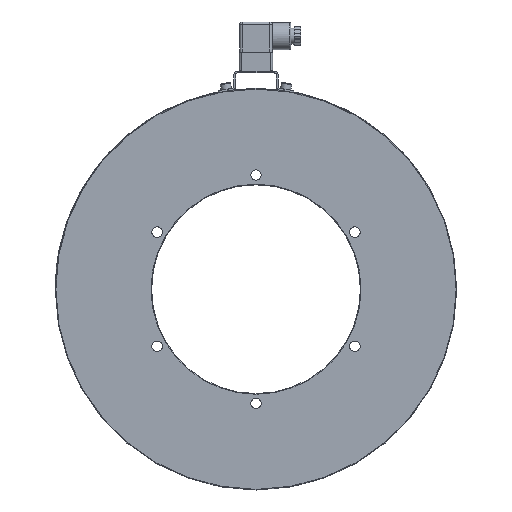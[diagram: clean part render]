
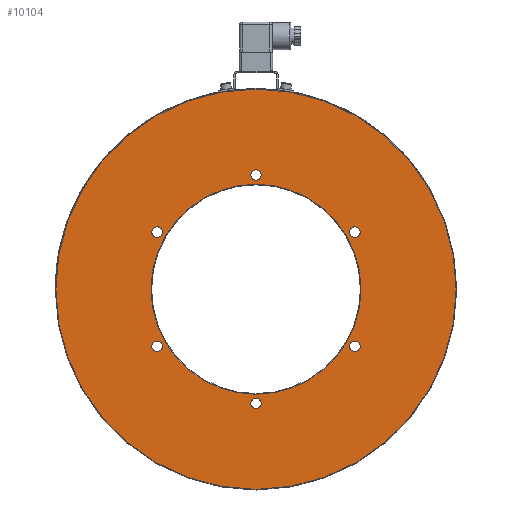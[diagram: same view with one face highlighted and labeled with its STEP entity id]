
A CAD part, left-side view. The second image highlights one B-rep face of the part: STEP entity #10104.
In plain terms, the highlighted planar face has unit normal (-1, 0, 0).
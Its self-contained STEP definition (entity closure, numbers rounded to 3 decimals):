
#558=FACE_BOUND('',#1692,.T.);
#559=FACE_BOUND('',#1693,.T.);
#560=FACE_BOUND('',#1694,.T.);
#561=FACE_BOUND('',#1695,.T.);
#562=FACE_BOUND('',#1696,.T.);
#563=FACE_BOUND('',#1697,.T.);
#564=FACE_BOUND('',#1698,.T.);
#682=PLANE('',#11219);
#1083=FACE_OUTER_BOUND('',#1691,.T.);
#1691=EDGE_LOOP('',(#8172,#8173,#8174));
#1692=EDGE_LOOP('',(#8175,#8176));
#1693=EDGE_LOOP('',(#8177,#8178));
#1694=EDGE_LOOP('',(#8179,#8180));
#1695=EDGE_LOOP('',(#8181,#8182));
#1696=EDGE_LOOP('',(#8183,#8184));
#1697=EDGE_LOOP('',(#8185,#8186));
#1698=EDGE_LOOP('',(#8187));
#3469=CIRCLE('',#10983,163.);
#3470=CIRCLE('',#10984,163.);
#3521=CIRCLE('',#11096,163.);
#3612=CIRCLE('',#11193,85.5);
#3615=CIRCLE('',#11198,4.25);
#3616=CIRCLE('',#11199,4.25);
#3617=CIRCLE('',#11201,4.25);
#3618=CIRCLE('',#11202,4.25);
#3619=CIRCLE('',#11204,4.25);
#3620=CIRCLE('',#11205,4.25);
#3621=CIRCLE('',#11207,4.25);
#3622=CIRCLE('',#11208,4.25);
#3623=CIRCLE('',#11210,4.25);
#3624=CIRCLE('',#11211,4.25);
#3625=CIRCLE('',#11213,4.25);
#3626=CIRCLE('',#11214,4.25);
#4396=VERTEX_POINT('',#16444);
#4402=VERTEX_POINT('',#16456);
#4403=VERTEX_POINT('',#16458);
#4614=VERTEX_POINT('',#17204);
#4617=VERTEX_POINT('',#17214);
#4618=VERTEX_POINT('',#17215);
#4619=VERTEX_POINT('',#17220);
#4620=VERTEX_POINT('',#17221);
#4621=VERTEX_POINT('',#17226);
#4622=VERTEX_POINT('',#17227);
#4623=VERTEX_POINT('',#17232);
#4624=VERTEX_POINT('',#17233);
#4625=VERTEX_POINT('',#17238);
#4626=VERTEX_POINT('',#17239);
#4627=VERTEX_POINT('',#17244);
#4628=VERTEX_POINT('',#17245);
#5584=EDGE_CURVE('',#4403,#4402,#3469,.T.);
#5585=EDGE_CURVE('',#4396,#4403,#3470,.T.);
#5760=EDGE_CURVE('',#4402,#4396,#3521,.T.);
#5858=EDGE_CURVE('',#4614,#4614,#3612,.T.);
#5862=EDGE_CURVE('',#4617,#4618,#3615,.T.);
#5863=EDGE_CURVE('',#4618,#4617,#3616,.T.);
#5865=EDGE_CURVE('',#4619,#4620,#3617,.T.);
#5866=EDGE_CURVE('',#4620,#4619,#3618,.T.);
#5868=EDGE_CURVE('',#4621,#4622,#3619,.T.);
#5869=EDGE_CURVE('',#4622,#4621,#3620,.T.);
#5871=EDGE_CURVE('',#4623,#4624,#3621,.T.);
#5872=EDGE_CURVE('',#4624,#4623,#3622,.T.);
#5874=EDGE_CURVE('',#4625,#4626,#3623,.T.);
#5875=EDGE_CURVE('',#4626,#4625,#3624,.T.);
#5877=EDGE_CURVE('',#4627,#4628,#3625,.T.);
#5878=EDGE_CURVE('',#4628,#4627,#3626,.T.);
#8172=ORIENTED_EDGE('',*,*,#5584,.T.);
#8173=ORIENTED_EDGE('',*,*,#5760,.T.);
#8174=ORIENTED_EDGE('',*,*,#5585,.T.);
#8175=ORIENTED_EDGE('',*,*,#5877,.T.);
#8176=ORIENTED_EDGE('',*,*,#5878,.T.);
#8177=ORIENTED_EDGE('',*,*,#5874,.T.);
#8178=ORIENTED_EDGE('',*,*,#5875,.T.);
#8179=ORIENTED_EDGE('',*,*,#5871,.T.);
#8180=ORIENTED_EDGE('',*,*,#5872,.T.);
#8181=ORIENTED_EDGE('',*,*,#5868,.T.);
#8182=ORIENTED_EDGE('',*,*,#5869,.T.);
#8183=ORIENTED_EDGE('',*,*,#5865,.T.);
#8184=ORIENTED_EDGE('',*,*,#5866,.T.);
#8185=ORIENTED_EDGE('',*,*,#5862,.T.);
#8186=ORIENTED_EDGE('',*,*,#5863,.T.);
#8187=ORIENTED_EDGE('',*,*,#5858,.F.);
#10104=ADVANCED_FACE('',(#1083,#558,#559,#560,#561,#562,#563,#564),#682,
 .T.);
#10983=AXIS2_PLACEMENT_3D('',#16459,#13226,#13227);
#10984=AXIS2_PLACEMENT_3D('',#16460,#13228,#13229);
#11096=AXIS2_PLACEMENT_3D('',#16978,#13552,#13553);
#11193=AXIS2_PLACEMENT_3D('',#17206,#13752,#13753);
#11198=AXIS2_PLACEMENT_3D('',#17216,#13763,#13764);
#11199=AXIS2_PLACEMENT_3D('',#17217,#13765,#13766);
#11201=AXIS2_PLACEMENT_3D('',#17222,#13770,#13771);
#11202=AXIS2_PLACEMENT_3D('',#17223,#13772,#13773);
#11204=AXIS2_PLACEMENT_3D('',#17228,#13777,#13778);
#11205=AXIS2_PLACEMENT_3D('',#17229,#13779,#13780);
#11207=AXIS2_PLACEMENT_3D('',#17234,#13784,#13785);
#11208=AXIS2_PLACEMENT_3D('',#17235,#13786,#13787);
#11210=AXIS2_PLACEMENT_3D('',#17240,#13791,#13792);
#11211=AXIS2_PLACEMENT_3D('',#17241,#13793,#13794);
#11213=AXIS2_PLACEMENT_3D('',#17246,#13798,#13799);
#11214=AXIS2_PLACEMENT_3D('',#17247,#13800,#13801);
#11219=AXIS2_PLACEMENT_3D('',#17255,#13811,#13812);
#13226=DIRECTION('center_axis',(-1.,0.,0.));
#13227=DIRECTION('ref_axis',(0.,1.,0.));
#13228=DIRECTION('center_axis',(-1.,0.,0.));
#13229=DIRECTION('ref_axis',(0.,1.,0.));
#13552=DIRECTION('center_axis',(-1.,0.,0.));
#13553=DIRECTION('ref_axis',(0.,1.,0.));
#13752=DIRECTION('center_axis',(-1.,0.,0.));
#13753=DIRECTION('ref_axis',(0.,-1.,0.));
#13763=DIRECTION('center_axis',(1.,0.,0.));
#13764=DIRECTION('ref_axis',(0.,0.,
1.));
#13765=DIRECTION('center_axis',(1.,0.,0.));
#13766=DIRECTION('ref_axis',(0.,0.,
1.));
#13770=DIRECTION('center_axis',(1.,0.,0.));
#13771=DIRECTION('ref_axis',(0.,0.,
1.));
#13772=DIRECTION('center_axis',(1.,0.,0.));
#13773=DIRECTION('ref_axis',(0.,0.,
1.));
#13777=DIRECTION('center_axis',(1.,0.,0.));
#13778=DIRECTION('ref_axis',(0.,0.,
1.));
#13779=DIRECTION('center_axis',(1.,0.,0.));
#13780=DIRECTION('ref_axis',(0.,0.,
1.));
#13784=DIRECTION('center_axis',(1.,0.,0.));
#13785=DIRECTION('ref_axis',(0.,0.,
1.));
#13786=DIRECTION('center_axis',(1.,0.,0.));
#13787=DIRECTION('ref_axis',(0.,0.,
1.));
#13791=DIRECTION('center_axis',(1.,0.,0.));
#13792=DIRECTION('ref_axis',(0.,0.,
1.));
#13793=DIRECTION('center_axis',(1.,0.,0.));
#13794=DIRECTION('ref_axis',(0.,0.,
1.));
#13798=DIRECTION('center_axis',(1.,0.,0.));
#13799=DIRECTION('ref_axis',(0.,0.,
1.));
#13800=DIRECTION('center_axis',(1.,0.,0.));
#13801=DIRECTION('ref_axis',(0.,0.,
1.));
#13811=DIRECTION('center_axis',(-1.,0.,0.));
#13812=DIRECTION('ref_axis',(0.,0.,
1.));
#16444=CARTESIAN_POINT('',(-33.8,28.305,160.524));
#16456=CARTESIAN_POINT('',(-33.8,-163.,0.));
#16458=CARTESIAN_POINT('',(-33.8,163.,0.));
#16459=CARTESIAN_POINT('Origin',(-33.8,0.,0.));
#16460=CARTESIAN_POINT('Origin',(-33.8,0.,0.));
#16978=CARTESIAN_POINT('Origin',(-33.8,0.,0.));
#17204=CARTESIAN_POINT('',(-33.8,85.5,0.));
#17206=CARTESIAN_POINT('Origin',(-33.8,0.,0.));
#17214=CARTESIAN_POINT('',(-33.8,-80.54,50.75));
#17215=CARTESIAN_POINT('',(-33.8,-80.54,42.25));
#17216=CARTESIAN_POINT('Origin',(-33.8,-80.54,46.5));
#17217=CARTESIAN_POINT('Origin',(-33.8,-80.54,46.5));
#17220=CARTESIAN_POINT('',(-33.8,0.,-88.75));
#17221=CARTESIAN_POINT('',(-33.8,0.,-97.25));
#17222=CARTESIAN_POINT('Origin',(-33.8,0.,-93.));
#17223=CARTESIAN_POINT('Origin',(-33.8,0.,-93.));
#17226=CARTESIAN_POINT('',(-33.8,80.54,50.75));
#17227=CARTESIAN_POINT('',(-33.8,80.54,42.25));
#17228=CARTESIAN_POINT('Origin',(-33.8,80.54,46.5));
#17229=CARTESIAN_POINT('Origin',(-33.8,80.54,46.5));
#17232=CARTESIAN_POINT('',(-33.8,0.,97.25));
#17233=CARTESIAN_POINT('',(-33.8,0.,88.75));
#17234=CARTESIAN_POINT('Origin',(-33.8,0.,93.));
#17235=CARTESIAN_POINT('Origin',(-33.8,0.,93.));
#17238=CARTESIAN_POINT('',(-33.8,80.54,-42.25));
#17239=CARTESIAN_POINT('',(-33.8,80.54,-50.75));
#17240=CARTESIAN_POINT('Origin',(-33.8,80.54,-46.5));
#17241=CARTESIAN_POINT('Origin',(-33.8,80.54,-46.5));
#17244=CARTESIAN_POINT('',(-33.8,-80.54,-42.25));
#17245=CARTESIAN_POINT('',(-33.8,-80.54,-50.75));
#17246=CARTESIAN_POINT('Origin',(-33.8,-80.54,-46.5));
#17247=CARTESIAN_POINT('Origin',(-33.8,-80.54,-46.5));
#17255=CARTESIAN_POINT('Origin',(-33.8,124.,0.));
